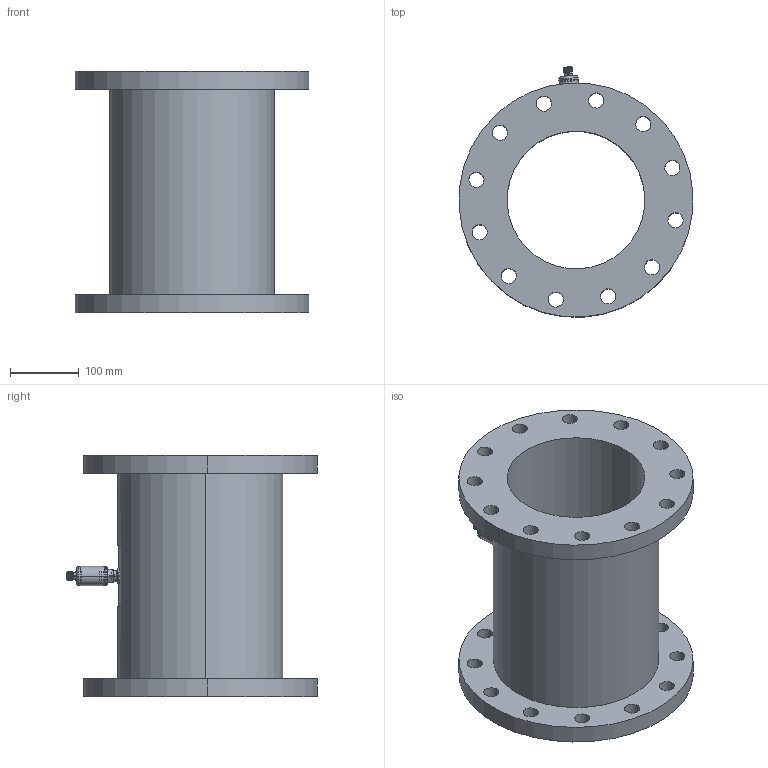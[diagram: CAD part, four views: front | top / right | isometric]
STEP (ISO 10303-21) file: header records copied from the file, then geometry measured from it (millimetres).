
FILE_DESCRIPTION (( 'STEP AP214' ), '1' );
FILE_NAME ('BFW1C200-J.STEP', '2026-01-20T06:47:35', ( '' ), ( '' ), 'SwSTEP 2.0', 'SolidWorks 2023', '' );
FILE_SCHEMA (( 'AUTOMOTIVE_DESIGN' ));
Length unit declared in the file: millimetre
Products named in the file (8): BFW1C200-J; 探头; 垫片; M16螺母; 压力变送器; DN200法兰-华东; 壳体; 连接管
Assembly tree (7 placements, depth 3):
  BFW1C200-J
    压力变送器
      壳体
      垫片
      连接管
      探头
    M16螺母
    DN200法兰-华东
Bounding box: 339.36 x 363.51 x 350 mm (x, y, z)
Volume: 6970201.9 mm3; surface area: 753444.2 mm2
Topology: 6 solids, 6 shells, 283 faces, 736 edges, 479 vertices
Faces by surface type: cylinder 176, plane 47, cone 46, torus 8, bspline 6
Entity records: 13170 total; most frequent: CARTESIAN_POINT 6133, ORIENTED_EDGE 1472, DIRECTION 1394, EDGE_CURVE 736, AXIS2_PLACEMENT_3D 570, VERTEX_POINT 479, EDGE_LOOP 365, ADVANCED_FACE 283
